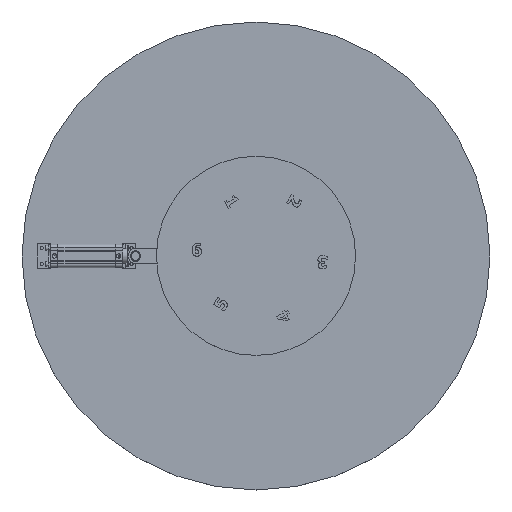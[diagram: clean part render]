
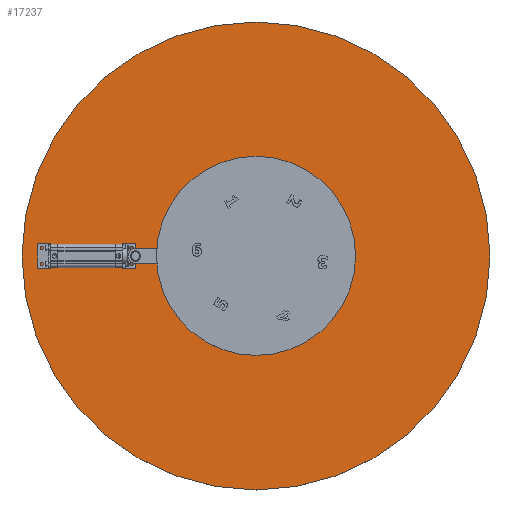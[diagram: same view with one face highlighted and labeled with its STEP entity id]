
A CAD part, top view. The second image highlights one B-rep face of the part: STEP entity #17237.
In plain terms, the highlighted planar face has unit normal (0, 0, 1) as drawn and (0, 0, -1) by its records, which use the part's own axes.
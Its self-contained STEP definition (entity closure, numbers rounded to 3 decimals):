
#704=FACE_BOUND('',#3872,.T.);
#1872=CIRCLE('',#19374,40.);
#1877=CIRCLE('',#19384,470.);
#2778=FACE_OUTER_BOUND('',#3871,.T.);
#3871=EDGE_LOOP('',(#15039));
#3872=EDGE_LOOP('',(#15040));
#8234=VERTEX_POINT('',#29182);
#8239=VERTEX_POINT('',#29200);
#10580=EDGE_CURVE('',#8234,#8234,#1872,.T.);
#10588=EDGE_CURVE('',#8239,#8239,#1877,.T.);
#15039=ORIENTED_EDGE('',*,*,#10588,.F.);
#15040=ORIENTED_EDGE('',*,*,#10580,.T.);
#16404=PLANE('',#19386);
#17237=ADVANCED_FACE('',(#2778,#704),#16404,.F.);
#19374=AXIS2_PLACEMENT_3D('',#29184,#23944,#23945);
#19384=AXIS2_PLACEMENT_3D('',#29202,#23967,#23968);
#19386=AXIS2_PLACEMENT_3D('',#29204,#23971,#23972);
#23944=DIRECTION('center_axis',(0.,0.,1.));
#23945=DIRECTION('ref_axis',(-1.,0.,0.));
#23967=DIRECTION('center_axis',(0.,0.,1.));
#23968=DIRECTION('ref_axis',(1.,0.,0.));
#23971=DIRECTION('center_axis',(0.,0.,1.));
#23972=DIRECTION('ref_axis',(1.,0.,0.));
#29182=CARTESIAN_POINT('',(308.013,0.,0.));
#29184=CARTESIAN_POINT('Origin',(268.013,0.,
0.));
#29200=CARTESIAN_POINT('',(-201.987,0.,0.));
#29202=CARTESIAN_POINT('Origin',(268.013,0.,
0.));
#29204=CARTESIAN_POINT('Origin',(268.013,0.,
0.));
